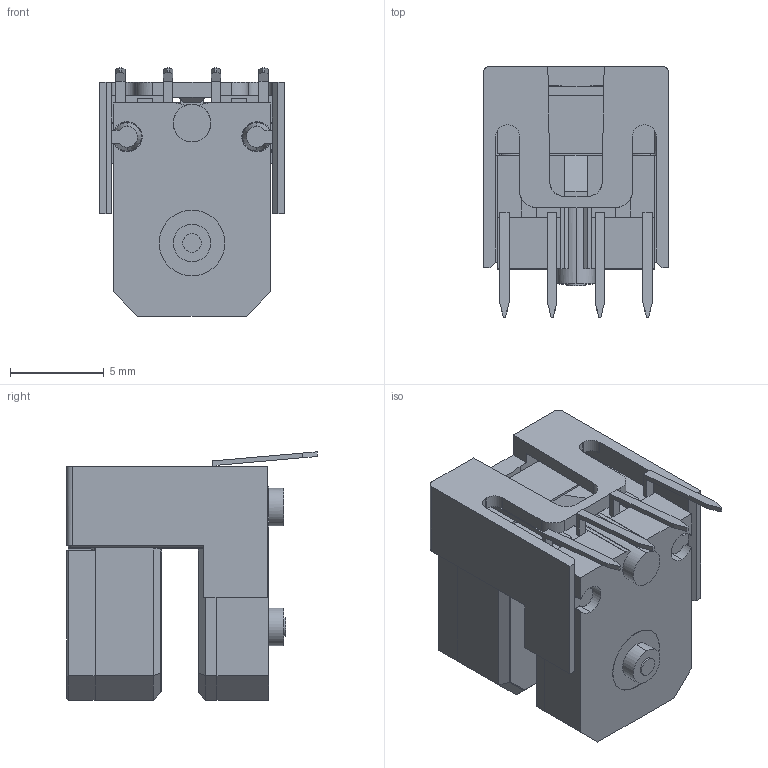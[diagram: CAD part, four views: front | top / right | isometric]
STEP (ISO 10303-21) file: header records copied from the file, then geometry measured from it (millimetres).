
FILE_DESCRIPTION (( 'STEP AP214' ), '1' );
FILE_NAME ('RS97俔褒祥湍嫉嗡.STEP', '2024-05-30T07:46:18', ( 'dell' ), ( '' ), 'SwSTEP 2.0', 'SolidWorks 2021', '' );
FILE_SCHEMA (( 'AUTOMOTIVE_DESIGN' ));
Length unit declared in the file: millimetre
Products named in the file (1): RS97俔褒祥湍嫉嗡
Bounding box: 9.85 x 13.34 x 13.23 mm (x, y, z)
Volume: 954.6 mm3; surface area: 1332.8 mm2
Topology: 6 solids, 6 shells, 313 faces, 837 edges, 533 vertices
Faces by surface type: plane 217, cylinder 72, bspline 16, cone 8
Entity records: 13695 total; most frequent: CARTESIAN_POINT 2986, ORIENTED_EDGE 1670, DIRECTION 1411, EDGE_CURVE 835, VECTOR 635, LINE 635, VERTEX_POINT 533, AXIS2_PLACEMENT_3D 388
